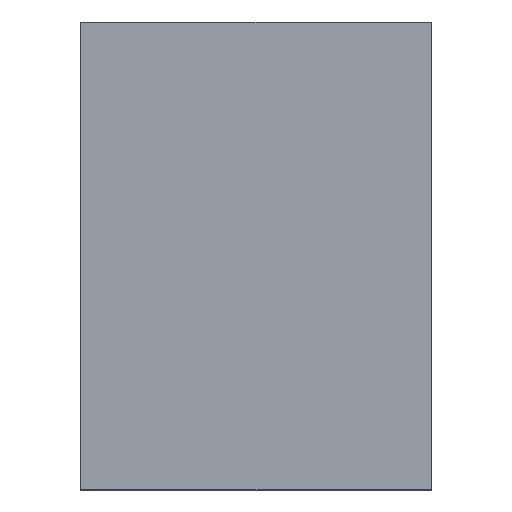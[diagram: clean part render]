
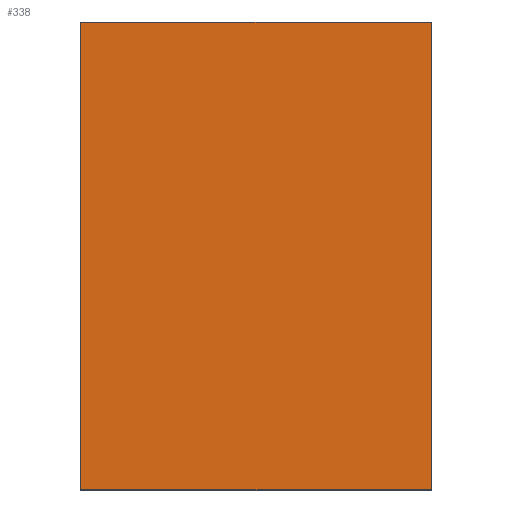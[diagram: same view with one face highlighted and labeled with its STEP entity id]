
A CAD part, top view. The second image highlights one B-rep face of the part: STEP entity #338.
In plain terms, the highlighted planar face has unit normal (0, 0, 1).
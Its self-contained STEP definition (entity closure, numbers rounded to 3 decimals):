
#24 = VERTEX_POINT('',#25);
#25 = CARTESIAN_POINT('',(75.,-100.,12.));
#32 = PLANE('',#33);
#33 = AXIS2_PLACEMENT_3D('',#34,#35,#36);
#34 = CARTESIAN_POINT('',(75.,-100.,0.));
#35 = DIRECTION('',(-0.,1.,-0.));
#36 = DIRECTION('',(1.,0.,0.));
#44 = PLANE('',#45);
#45 = AXIS2_PLACEMENT_3D('',#46,#47,#48);
#46 = CARTESIAN_POINT('',(75.,100.,0.));
#47 = DIRECTION('',(-1.,-0.,-0.));
#48 = DIRECTION('',(0.,1.,0.));
#56 = EDGE_CURVE('',#24,#57,#59,.T.);
#57 = VERTEX_POINT('',#58);
#58 = CARTESIAN_POINT('',(-75.,-100.,12.));
#59 = SURFACE_CURVE('',#60,(#64,#71),.PCURVE_S1.);
#60 = LINE('',#61,#62);
#61 = CARTESIAN_POINT('',(75.,-100.,12.));
#62 = VECTOR('',#63,1.);
#63 = DIRECTION('',(-1.,-0.,-0.));
#64 = PCURVE('',#32,#65);
#65 = DEFINITIONAL_REPRESENTATION('',(#66),#70);
#66 = LINE('',#67,#68);
#67 = CARTESIAN_POINT('',(-0.,-12.));
#68 = VECTOR('',#69,1.);
#69 = DIRECTION('',(-1.,0.));
#70 = ( GEOMETRIC_REPRESENTATION_CONTEXT(2) 
PARAMETRIC_REPRESENTATION_CONTEXT() REPRESENTATION_CONTEXT('2D SPACE',''
  ) );
#71 = PCURVE('',#72,#77);
#72 = PLANE('',#73);
#73 = AXIS2_PLACEMENT_3D('',#74,#75,#76);
#74 = CARTESIAN_POINT('',(0.,0.,12.));
#75 = DIRECTION('',(-0.,-0.,1.));
#76 = DIRECTION('',(1.,0.,0.));
#77 = DEFINITIONAL_REPRESENTATION('',(#78),#82);
#78 = LINE('',#79,#80);
#79 = CARTESIAN_POINT('',(75.,-100.));
#80 = VECTOR('',#81,1.);
#81 = DIRECTION('',(-1.,0.));
#82 = ( GEOMETRIC_REPRESENTATION_CONTEXT(2) 
PARAMETRIC_REPRESENTATION_CONTEXT() REPRESENTATION_CONTEXT('2D SPACE',''
  ) );
#100 = PLANE('',#101);
#101 = AXIS2_PLACEMENT_3D('',#102,#103,#104);
#102 = CARTESIAN_POINT('',(-75.,-100.,0.));
#103 = DIRECTION('',(1.,-0.,-0.));
#104 = DIRECTION('',(0.,-1.,0.));
#142 = EDGE_CURVE('',#57,#143,#145,.T.);
#143 = VERTEX_POINT('',#144);
#144 = CARTESIAN_POINT('',(-75.,100.,12.));
#145 = SURFACE_CURVE('',#146,(#150,#157),.PCURVE_S1.);
#146 = LINE('',#147,#148);
#147 = CARTESIAN_POINT('',(-75.,-100.,12.));
#148 = VECTOR('',#149,1.);
#149 = DIRECTION('',(-0.,1.,-0.));
#150 = PCURVE('',#100,#151);
#151 = DEFINITIONAL_REPRESENTATION('',(#152),#156);
#152 = LINE('',#153,#154);
#153 = CARTESIAN_POINT('',(-0.,-12.));
#154 = VECTOR('',#155,1.);
#155 = DIRECTION('',(-1.,0.));
#156 = ( GEOMETRIC_REPRESENTATION_CONTEXT(2) 
PARAMETRIC_REPRESENTATION_CONTEXT() REPRESENTATION_CONTEXT('2D SPACE',''
  ) );
#157 = PCURVE('',#72,#158);
#158 = DEFINITIONAL_REPRESENTATION('',(#159),#163);
#159 = LINE('',#160,#161);
#160 = CARTESIAN_POINT('',(-75.,-100.));
#161 = VECTOR('',#162,1.);
#162 = DIRECTION('',(-0.,1.));
#163 = ( GEOMETRIC_REPRESENTATION_CONTEXT(2) 
PARAMETRIC_REPRESENTATION_CONTEXT() REPRESENTATION_CONTEXT('2D SPACE',''
  ) );
#181 = PLANE('',#182);
#182 = AXIS2_PLACEMENT_3D('',#183,#184,#185);
#183 = CARTESIAN_POINT('',(-75.,100.,0.));
#184 = DIRECTION('',(-0.,-1.,-0.));
#185 = DIRECTION('',(-1.,0.,0.));
#218 = EDGE_CURVE('',#143,#219,#221,.T.);
#219 = VERTEX_POINT('',#220);
#220 = CARTESIAN_POINT('',(75.,100.,12.));
#221 = SURFACE_CURVE('',#222,(#226,#233),.PCURVE_S1.);
#222 = LINE('',#223,#224);
#223 = CARTESIAN_POINT('',(-75.,100.,12.));
#224 = VECTOR('',#225,1.);
#225 = DIRECTION('',(1.,-0.,-0.));
#226 = PCURVE('',#181,#227);
#227 = DEFINITIONAL_REPRESENTATION('',(#228),#232);
#228 = LINE('',#229,#230);
#229 = CARTESIAN_POINT('',(-0.,-12.));
#230 = VECTOR('',#231,1.);
#231 = DIRECTION('',(-1.,0.));
#232 = ( GEOMETRIC_REPRESENTATION_CONTEXT(2) 
PARAMETRIC_REPRESENTATION_CONTEXT() REPRESENTATION_CONTEXT('2D SPACE',''
  ) );
#233 = PCURVE('',#72,#234);
#234 = DEFINITIONAL_REPRESENTATION('',(#235),#239);
#235 = LINE('',#236,#237);
#236 = CARTESIAN_POINT('',(-75.,100.));
#237 = VECTOR('',#238,1.);
#238 = DIRECTION('',(1.,-0.));
#239 = ( GEOMETRIC_REPRESENTATION_CONTEXT(2) 
PARAMETRIC_REPRESENTATION_CONTEXT() REPRESENTATION_CONTEXT('2D SPACE',''
  ) );
#289 = EDGE_CURVE('',#219,#24,#290,.T.);
#290 = SURFACE_CURVE('',#291,(#295,#302),.PCURVE_S1.);
#291 = LINE('',#292,#293);
#292 = CARTESIAN_POINT('',(75.,100.,12.));
#293 = VECTOR('',#294,1.);
#294 = DIRECTION('',(-0.,-1.,-0.));
#295 = PCURVE('',#44,#296);
#296 = DEFINITIONAL_REPRESENTATION('',(#297),#301);
#297 = LINE('',#298,#299);
#298 = CARTESIAN_POINT('',(-0.,-12.));
#299 = VECTOR('',#300,1.);
#300 = DIRECTION('',(-1.,0.));
#301 = ( GEOMETRIC_REPRESENTATION_CONTEXT(2) 
PARAMETRIC_REPRESENTATION_CONTEXT() REPRESENTATION_CONTEXT('2D SPACE',''
  ) );
#302 = PCURVE('',#72,#303);
#303 = DEFINITIONAL_REPRESENTATION('',(#304),#308);
#304 = LINE('',#305,#306);
#305 = CARTESIAN_POINT('',(75.,100.));
#306 = VECTOR('',#307,1.);
#307 = DIRECTION('',(-0.,-1.));
#308 = ( GEOMETRIC_REPRESENTATION_CONTEXT(2) 
PARAMETRIC_REPRESENTATION_CONTEXT() REPRESENTATION_CONTEXT('2D SPACE',''
  ) );
#338 = ADVANCED_FACE('',(#339),#72,.T.);
#339 = FACE_BOUND('',#340,.F.);
#340 = EDGE_LOOP('',(#341,#342,#343,#344));
#341 = ORIENTED_EDGE('',*,*,#56,.T.);
#342 = ORIENTED_EDGE('',*,*,#142,.T.);
#343 = ORIENTED_EDGE('',*,*,#218,.T.);
#344 = ORIENTED_EDGE('',*,*,#289,.T.);
